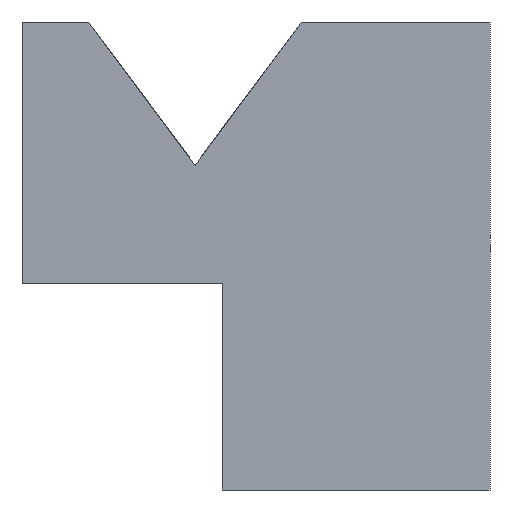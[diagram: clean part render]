
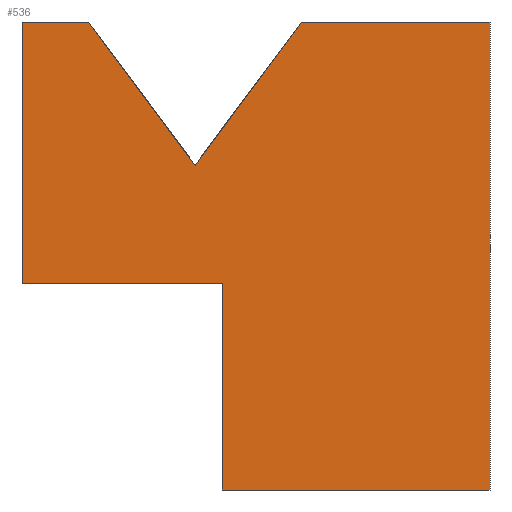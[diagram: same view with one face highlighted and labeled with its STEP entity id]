
A CAD part, front view. The second image highlights one B-rep face of the part: STEP entity #536.
In plain terms, the highlighted planar face has unit normal (0, -1, 0).
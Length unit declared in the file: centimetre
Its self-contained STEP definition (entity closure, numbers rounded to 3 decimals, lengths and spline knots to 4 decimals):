
#1 = DIRECTION ( 'NONE',  ( 0., 0., 1. ) ) ;
#21 = VECTOR ( 'NONE', #391, 100. ) ;
#22 = EDGE_CURVE ( 'NONE', #185, #236, #546, .T. ) ;
#28 = CARTESIAN_POINT ( 'NONE',  ( 0., 0., 441.365 ) ) ;
#32 = DIRECTION ( 'NONE',  ( 0.597, 0., -0.802 ) ) ;
#38 = DIRECTION ( 'NONE',  ( 0.597, 0., 0.802 ) ) ;
#44 = EDGE_CURVE ( 'NONE', #399, #489, #564, .T. ) ;
#46 = VECTOR ( 'NONE', #32, 100. ) ;
#47 = FACE_OUTER_BOUND ( 'NONE', #533, .T. ) ;
#49 = ORIENTED_EDGE ( 'NONE', *, *, #44, .F. ) ;
#52 = ORIENTED_EDGE ( 'NONE', *, *, #235, .F. ) ;
#57 = EDGE_CURVE ( 'NONE', #71, #399, #320, .T. ) ;
#71 = VERTEX_POINT ( 'NONE', #312 ) ;
#82 = DIRECTION ( 'NONE',  ( 1., 0., 0. ) ) ;
#87 = CARTESIAN_POINT ( 'NONE',  ( 0., 0., 1000. ) ) ;
#108 = EDGE_CURVE ( 'NONE', #489, #478, #479, .T. ) ;
#113 = CARTESIAN_POINT ( 'NONE',  ( 1000., 0., 1000. ) ) ;
#115 = AXIS2_PLACEMENT_3D ( 'NONE', #415, #603, #1 ) ;
#123 = VERTEX_POINT ( 'NONE', #314 ) ;
#125 = ORIENTED_EDGE ( 'NONE', *, *, #134, .T. ) ;
#130 = VECTOR ( 'NONE', #493, 100. ) ;
#133 = CARTESIAN_POINT ( 'NONE',  ( 142.3195, 0., 1000. ) ) ;
#134 = EDGE_CURVE ( 'NONE', #123, #350, #476, .T. ) ;
#160 = EDGE_CURVE ( 'NONE', #236, #478, #242, .T. ) ;
#162 = ORIENTED_EDGE ( 'NONE', *, *, #108, .F. ) ;
#172 = CARTESIAN_POINT ( 'NONE',  ( 0., 0., 0. ) ) ;
#178 = EDGE_CURVE ( 'NONE', #123, #571, #208, .T. ) ;
#184 = ORIENTED_EDGE ( 'NONE', *, *, #178, .F. ) ;
#185 = VERTEX_POINT ( 'NONE', #203 ) ;
#195 = CARTESIAN_POINT ( 'NONE',  ( 0., 0., 441.365 ) ) ;
#202 = EDGE_CURVE ( 'NONE', #350, #185, #585, .T. ) ;
#203 = CARTESIAN_POINT ( 'NONE',  ( 427.5531, 0., 441.365 ) ) ;
#205 = ORIENTED_EDGE ( 'NONE', *, *, #202, .T. ) ;
#208 = LINE ( 'NONE', #401, #376 ) ;
#225 = CARTESIAN_POINT ( 'NONE',  ( 369.7359, 0., 694.3378 ) ) ;
#235 = EDGE_CURVE ( 'NONE', #571, #71, #548, .T. ) ;
#236 = VERTEX_POINT ( 'NONE', #325 ) ;
#242 = LINE ( 'NONE', #172, #567 ) ;
#251 = CARTESIAN_POINT ( 'NONE',  ( 0., 0., 1000. ) ) ;
#260 = VECTOR ( 'NONE', #524, 100. ) ;
#275 = DIRECTION ( 'NONE',  ( 0., 0., -1. ) ) ;
#284 = VECTOR ( 'NONE', #275, 100. ) ;
#294 = CARTESIAN_POINT ( 'NONE',  ( 597.1524, 0., 1000. ) ) ;
#302 = ORIENTED_EDGE ( 'NONE', *, *, #160, .T. ) ;
#312 = CARTESIAN_POINT ( 'NONE',  ( 369.7359, 0., 694.3378 ) ) ;
#314 = CARTESIAN_POINT ( 'NONE',  ( 0., 0., 1000. ) ) ;
#320 = LINE ( 'NONE', #225, #324 ) ;
#324 = VECTOR ( 'NONE', #38, 100. ) ;
#325 = CARTESIAN_POINT ( 'NONE',  ( 427.5531, 0., 0. ) ) ;
#335 = CARTESIAN_POINT ( 'NONE',  ( 1000., 0., 1000. ) ) ;
#350 = VERTEX_POINT ( 'NONE', #195 ) ;
#354 = DIRECTION ( 'NONE',  ( 1., 0., 0. ) ) ;
#369 = ORIENTED_EDGE ( 'NONE', *, *, #22, .T. ) ;
#376 = VECTOR ( 'NONE', #82, 100. ) ;
#377 = CARTESIAN_POINT ( 'NONE',  ( 427.5531, 0., 0. ) ) ;
#378 = CARTESIAN_POINT ( 'NONE',  ( 142.3195, 0., 1000. ) ) ;
#391 = DIRECTION ( 'NONE',  ( 1., 0., 0. ) ) ;
#399 = VERTEX_POINT ( 'NONE', #294 ) ;
#401 = CARTESIAN_POINT ( 'NONE',  ( 0., 0., 1000. ) ) ;
#411 = DIRECTION ( 'NONE',  ( 1., 0., 0. ) ) ;
#415 = CARTESIAN_POINT ( 'NONE',  ( 0., 0., 1000. ) ) ;
#437 = ORIENTED_EDGE ( 'NONE', *, *, #57, .F. ) ;
#471 = CARTESIAN_POINT ( 'NONE',  ( 1000., 0., 0. ) ) ;
#473 = VECTOR ( 'NONE', #354, 100. ) ;
#476 = LINE ( 'NONE', #87, #284 ) ;
#478 = VERTEX_POINT ( 'NONE', #471 ) ;
#479 = LINE ( 'NONE', #113, #260 ) ;
#489 = VERTEX_POINT ( 'NONE', #335 ) ;
#493 = DIRECTION ( 'NONE',  ( 0., 0., -1. ) ) ;
#500 = PLANE ( 'NONE',  #115 ) ;
#524 = DIRECTION ( 'NONE',  ( 0., 0., -1. ) ) ;
#533 = EDGE_LOOP ( 'NONE', ( #205, #369, #302, #162, #49, #437, #52, #184, #125 ) ) ;
#536 = ADVANCED_FACE ( 'NONE', ( #47 ), #500, .F. ) ;
#546 = LINE ( 'NONE', #377, #130 ) ;
#548 = LINE ( 'NONE', #133, #46 ) ;
#564 = LINE ( 'NONE', #251, #21 ) ;
#567 = VECTOR ( 'NONE', #411, 100. ) ;
#571 = VERTEX_POINT ( 'NONE', #378 ) ;
#585 = LINE ( 'NONE', #28, #473 ) ;
#603 = DIRECTION ( 'NONE',  ( 0., 1., 0. ) ) ;
